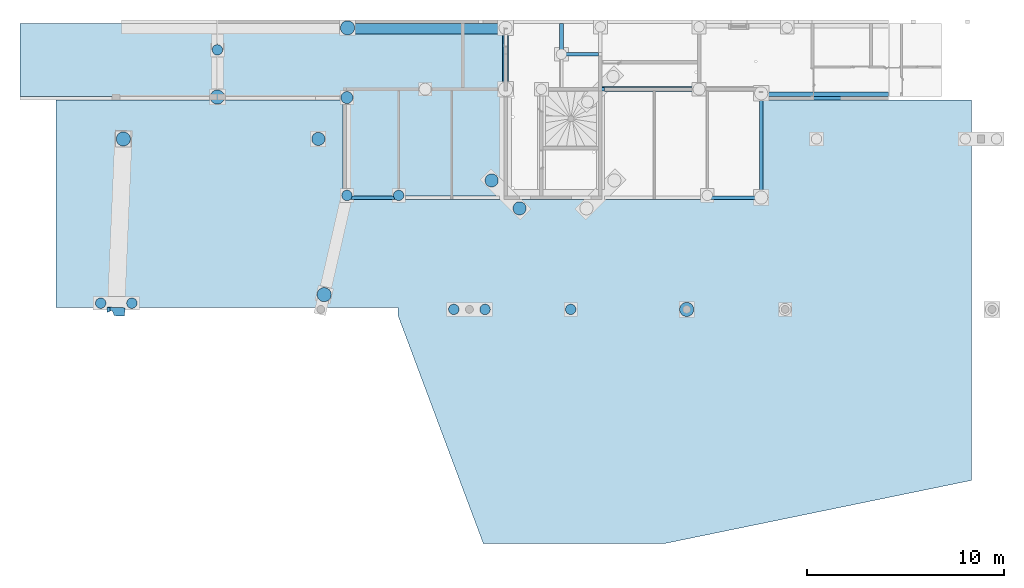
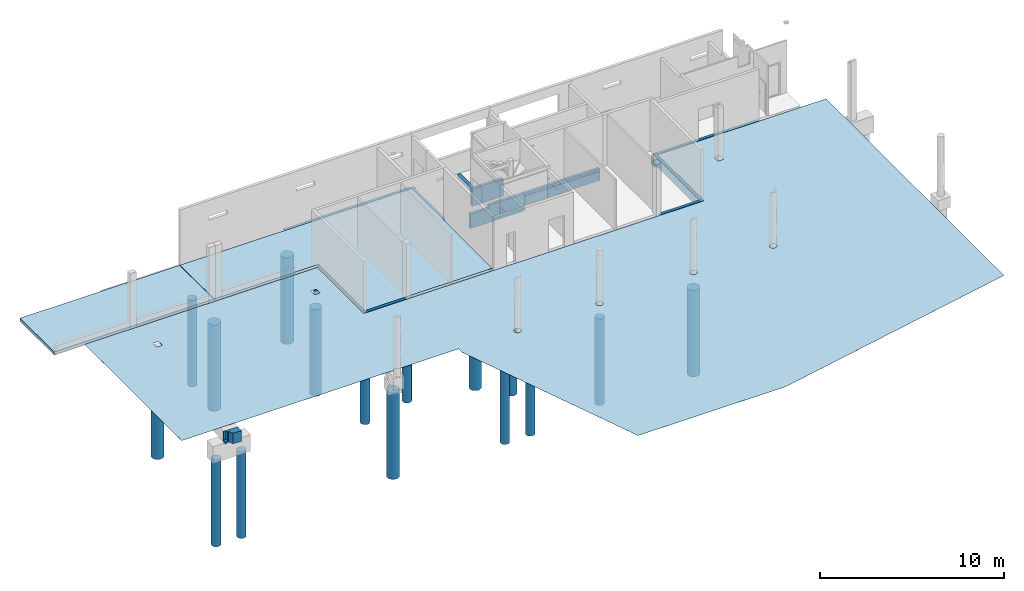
# One storey, part 3 of 29: 20 slabs, 11 beams, 7 openings.
"""IFC2X3 building model written with IfcOpenShell, lengths in centimetres."""

from ifc_helpers import new_model, entity, si_unit, converted_unit, derived_unit, direction, frame, frame_2d, origin, origin_2d_with_axis, place, context, subcontext, project, spatial, polyline, circle_curve, parameter, trimmed, segment, composite_curve, rectangle, circle, outline, extrude, faceted_brep, source, transform, mapped, material, material_list, layer, layer_set, layer_usage, type_object, type_shapes, element, save


model = new_model("IFC2X3")

# Units and contexts
model_context = context("Model", 3, precision=0.001, world=origin(), true_north=direction((6.12303176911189e-17, 1.0)))
body_context = subcontext(model_context, "Body", "Model", "MODEL_VIEW")
ifc_project = project(units=[si_unit("LENGTHUNIT", "METRE", prefix="CENTI"), si_unit("AREAUNIT", "SQUARE_METRE"), si_unit("VOLUMEUNIT", "CUBIC_METRE"), converted_unit("PLANEANGLEUNIT", "DEGREE", entity("IfcRatioMeasure", 0.0174532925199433), si_unit("PLANEANGLEUNIT", "RADIAN"), dimensions=[0, 0, 0, 0, 0, 0, 0]), si_unit("MASSUNIT", "GRAM", prefix="KILO"), derived_unit("MASSDENSITYUNIT", [(si_unit("MASSUNIT", "GRAM", prefix="KILO"), 1), (si_unit("LENGTHUNIT", "METRE"), -3)]), si_unit("TIMEUNIT", "SECOND"), si_unit("FREQUENCYUNIT", "HERTZ"), si_unit("THERMODYNAMICTEMPERATUREUNIT", "DEGREE_CELSIUS"), derived_unit("THERMALTRANSMITTANCEUNIT", [(si_unit("MASSUNIT", "GRAM", prefix="KILO"), 1), (si_unit("THERMODYNAMICTEMPERATUREUNIT", "KELVIN"), -1), (si_unit("TIMEUNIT", "SECOND"), -3)]), derived_unit("VOLUMETRICFLOWRATEUNIT", [(si_unit("LENGTHUNIT", "METRE"), 3), (si_unit("TIMEUNIT", "SECOND"), -1)]), si_unit("ELECTRICCURRENTUNIT", "AMPERE"), si_unit("ELECTRICVOLTAGEUNIT", "VOLT"), si_unit("POWERUNIT", "WATT"), si_unit("FORCEUNIT", "NEWTON"), si_unit("ILLUMINANCEUNIT", "LUX"), si_unit("LUMINOUSFLUXUNIT", "LUMEN"), si_unit("LUMINOUSINTENSITYUNIT", "CANDELA"), derived_unit("USERDEFINED", [(si_unit("MASSUNIT", "GRAM", prefix="KILO"), -1), (si_unit("LENGTHUNIT", "METRE"), -2), (si_unit("TIMEUNIT", "SECOND"), 3), (si_unit("LUMINOUSFLUXUNIT", "LUMEN"), 1)]), derived_unit("LINEARVELOCITYUNIT", [(si_unit("LENGTHUNIT", "METRE"), 1), (si_unit("TIMEUNIT", "SECOND"), -1)]), si_unit("PRESSUREUNIT", "PASCAL"), derived_unit("USERDEFINED", [(si_unit("LENGTHUNIT", "METRE"), -2), (si_unit("MASSUNIT", "GRAM", prefix="KILO"), 1), (si_unit("TIMEUNIT", "SECOND"), -2)])], contexts=[model_context])

# Site, building, storey
site_placement = place(None, origin())
site = spatial("IfcSite", under=ifc_project, at=site_placement, Name="Default", CompositionType="ELEMENT")
building_placement = place(site_placement, origin())
building = spatial("IfcBuilding", under=site, at=building_placement, Name="CAGE 03", CompositionType="ELEMENT")
storey_placement = place(building_placement, frame((0.0, 0.0, -26.0)))
storey = spatial("IfcBuildingStorey", under=building, at=storey_placement, Name="+3.74", CompositionType="ELEMENT", Elevation=-26.0000000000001)

# Beams
ifc_material_1 = material(Name="Béton, C25/30")
ifc_material_2 = material(Name="<Unnamed>")
ifc_material_list = material_list([ifc_material_1, ifc_material_2])
beam_type_1 = type_object("IfcBeamType", Name="40x80ht", PredefinedType="BEAM", material=ifc_material_list)
beam_1_placement = place(storey_placement, frame((8131.36582014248, 4886.66066607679, -80.0)))
element("IfcBeam", 1, at=beam_1_placement, inside=storey, type_object=beam_type_1, material=ifc_material_1, Name="BBGO-Poutre rect:40x80ht", ObjectType="BBGO-Poutre rect:40x80ht", context=body_context, shape_type="Brep", body=[
    faceted_brep([(656.0, 0.0, 80.0), (656.0, 0.0, 0.0), (656.0, 40.0, 0.0), (656.0, 40.0, 60.0), (656.0, 18.0, 60.0), (656.0, 18.0, 80.0), (0.0, 40.0, 0.0), (0.0, 0.0, 0.0), (0.0, 0.0, 20.0), (0.0, 9.0, 20.0), (0.0, 9.0, 60.0), (0.0, 9.0, 80.0), (0.0, 18.0, 80.0), (0.0, 18.0, 60.0), (0.0, 40.0, 60.0), (412.499999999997, 0.0, 80.0), (276.499999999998, 0.0, 80.0), (18.0, 0.0, 80.0), (18.0, 0.0, 20.0), (617.0, 0.0, 0.0), (18.0, 40.0, 0.0), (617.0, 40.0, 0.0), (18.0, 40.0, 60.0), (412.499999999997, 18.0, 80.0), (276.499999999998, 18.0, 80.0), (18.0, 18.0, 80.0), (18.0, 9.0, 80.0), (18.0, 9.0, 20.0)], [[[0, 1, 2, 3, 4, 5]], [[6, 7, 8, 9, 10, 11, 12, 13, 14]], [[1, 0, 15, 16, 17, 18, 8, 7, 19]], [[2, 1, 19, 7, 6, 20, 21]], [[2, 21, 20, 6, 14, 22, 3]], [[17, 16, 15, 0, 5, 23, 24, 25, 12, 11, 26]], [[27, 9, 8, 18]], [[26, 27, 18, 17]], [[27, 26, 11, 10, 9]], [[13, 4, 3, 22, 14]], [[4, 13, 12, 25, 24, 23, 5]]]),
])
beam_type_2 = type_object("IfcBeamType", Name="BBGO-Poutre rect:70x80ht", PredefinedType="BEAM")
beam_2_placement = place(storey_placement, frame((6036.36582014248, 5223.6606660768, -80.0)))
element("IfcBeam", 2, at=beam_2_placement, inside=storey, type_object=beam_type_2, material=ifc_material_1, Name="BBGO-Poutre rect:70x80ht", ObjectType="BBGO-Poutre rect:70x80ht", context=body_context, shape_type="Brep", body=[
    faceted_brep([(789.0, 0.0, 0.0), (0.0, 0.0, 0.0), (0.0, 70.0, 0.0), (40.0, 70.0, 0.0), (789.0, 70.0, 0.0), (0.0, 70.0, 80.0), (795.0, 70.0, 80.0), (795.0, 70.0, 75.0), (789.0, 70.0, 75.0), (0.0, 52.0, 80.0), (795.0, 52.0, 80.0), (0.0, 0.0, 60.0), (789.0, 0.0, 60.0), (789.0, 52.0, 60.0), (0.0, 52.0, 60.0), (789.0, 52.0, 75.0), (795.0, 52.0, 75.0)], [[[0, 1, 2, 3, 4]], [[4, 3, 2, 5, 6, 7, 8]], [[5, 9, 10, 6]], [[11, 12, 13, 14]], [[14, 13, 15, 16, 10, 9]], [[8, 15, 13, 12, 0, 4]], [[15, 8, 7, 16]], [[12, 11, 1, 0]], [[7, 6, 10, 16]], [[5, 2, 1, 11, 14, 9]]]),
])
beam_type_3 = type_object("IfcBeamType", Name="BBGO-Poutre rect:30x80ht", PredefinedType="BEAM")
beam_3_placement = place(storey_placement, frame((6825.36582014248, 4950.6606660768, -85.0), z_axis=(0.0, 0.0, 1.0), x_axis=(0.0, 1.0, 0.0)))
element("IfcBeam", 3, at=beam_3_placement, inside=storey, type_object=beam_type_3, material=ifc_material_1, Name="BBGO-Poutre rect:30x80ht", ObjectType="BBGO-Poutre rect:30x80ht", context=body_context, shape_type="Brep", body=[
    faceted_brep([(343.0, -30.0, 80.0), (343.0, -30.0, 0.0), (343.0, 0.0, 0.0), (343.0, 0.0, 5.0), (343.0, 0.0, 80.0), (343.0, -6.0, 80.0), (325.0, -30.0, 80.0), (325.0, -30.0, 60.0), (0.0, -30.0, 60.0), (0.0, -30.0, 0.0), (325.0, -30.0, 0.0), (0.0, 0.0, 0.0), (0.0, 0.0, 65.0), (273.0, 0.0, 65.0), (325.0, 0.0, 65.0), (325.0, 0.0, 80.0), (325.0, -6.0, 80.0), (169.0, -6.0, 80.0), (0.0, -6.0, 80.0), (0.0, -24.0, 80.0), (169.0, -24.0, 80.0), (325.0, -24.0, 80.0), (0.0, -6.0, 65.0), (325.0, -6.0, 65.0), (325.0, -24.0, 60.0), (0.0, -24.0, 60.0)], [[[0, 1, 2, 3, 4, 5]], [[1, 0, 6, 7, 8, 9, 10]], [[2, 1, 10, 9, 11]], [[4, 3, 2, 11, 12, 13, 14, 15]], [[0, 5, 4, 15, 16, 17, 18, 19, 20, 21, 6]], [[14, 13, 12, 22, 23]], [[23, 22, 18, 17, 16]], [[7, 24, 25, 8]], [[24, 21, 20, 19, 25]], [[11, 9, 8, 25, 19, 18, 22, 12]], [[14, 23, 16, 15]], [[21, 24, 7, 6]]]),
])
beam_type_4 = type_object("IfcBeamType", Name="BBGO-Poutre rect:90x70ht", PredefinedType="BEAM")
beam_4_placement = place(storey_placement, frame((4813.06767684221, 3787.50394969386, -102.0), z_axis=(0.0, 0.0, 1.0), x_axis=(0.0427203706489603, 0.999087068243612, 0.0)))
element("IfcBeam", 4, at=beam_4_placement, inside=storey, type_object=beam_type_4, material=ifc_material_1, Name="BBGO-Poutre rect:90x70ht", ObjectType="BBGO-Poutre rect:90x70ht", context=body_context, shape_type="Brep", body=[
    faceted_brep([(3.8151997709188, -89.2248053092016, 0.0), (3.8151997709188, -89.2248053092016, 4.0), (3.8151997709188, -89.2248053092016, 70.0), (3.8151997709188, -36.8156789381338, 70.0), (3.8151997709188, -36.8156789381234, 4.0), (3.8151997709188, -36.8156789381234, 0.0), (46.0880917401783, -89.224805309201, 0.0), (46.0880917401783, -89.224805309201, 70.0), (30.157313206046, -24.0553929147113, 0.0), (18.1292198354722, 0.775194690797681, 0.0), (46.0880917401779, 0.775194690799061, 0.0), (44.163918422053, 0.775194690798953, 14.0), (44.163918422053, 0.775194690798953, 70.0), (46.0880917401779, 0.775194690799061, 70.0), (18.1292198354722, 0.775194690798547, 14.0), (44.8053095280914, -14.2248053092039, 70.0), (25.7891939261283, -15.03792313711, 70.0), (30.1573132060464, -24.0553929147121, 70.0), (44.8053095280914, -14.2248053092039, 14.0), (25.7891939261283, -15.0379231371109, 14.0)], [[[0, 1, 2, 3, 4, 5]], [[2, 1, 0, 6, 7]], [[6, 0, 5, 8, 9, 10]], [[11, 12, 13, 10, 9, 14]], [[2, 7, 13, 12, 15, 16, 17, 3]], [[18, 11, 14, 19]], [[17, 8, 5, 4, 3]], [[8, 17, 16, 19, 14, 9]], [[15, 18, 19, 16]], [[12, 11, 18, 15]], [[7, 6, 10, 13]]]),
])
beam_type_5 = type_object("IfcBeamType", Name="BBGO-Poutre rect:18x60ht", PredefinedType="BEAM")
beam_5_placement = place(storey_placement, frame((6028.77961324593, 4381.6606660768, -60.0)))
element("IfcBeam", 5, at=beam_5_placement, inside=storey, type_object=beam_type_5, material=ifc_material_1, Name="BBGO-Poutre rect:18x60ht", ObjectType="BBGO-Poutre rect:18x60ht", context=body_context, shape_type="Brep", body=[
    faceted_brep([(30.7786437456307, 0.0, 28.0), (30.7786437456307, 0.0, 0.0), (252.586206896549, 0.0, 0.0), (252.586206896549, 0.0, 60.0), (2.5862068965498, 0.0, 60.0), (0.0, 0.0, 60.0), (0.0, 0.0, 28.0), (34.9062299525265, 18.0, 0.0), (252.586206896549, 18.0, 0.0), (34.9062299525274, 18.0, 28.0), (24.5862068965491, 18.0, 28.0), (4.127586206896, 18.0, 28.0), (4.127586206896, 18.0, 40.0), (24.5862068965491, 18.0, 40.0), (252.586206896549, 18.0, 40.0), (4.12230815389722, 17.9769829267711, 60.0), (252.586206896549, 17.9769829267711, 60.0), (4.12230815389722, 17.9769829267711, 40.0), (252.586206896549, 17.9769829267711, 40.0)], [[[0, 1, 2, 3, 4, 5, 6]], [[1, 7, 8, 2]], [[7, 9, 10, 11, 12, 13, 14, 8]], [[15, 5, 4, 3, 16]], [[12, 17, 18, 14, 13]], [[17, 15, 16, 18]], [[0, 9, 7, 1]], [[9, 0, 6, 11, 10]], [[5, 15, 17, 12, 11, 6]], [[3, 2, 8, 14, 18, 16]]]),
])
beam_6_placement = place(storey_placement, frame((7881.36582014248, 4381.6606660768, -60.0)))
element("IfcBeam", 6, at=beam_6_placement, inside=storey, type_object=beam_type_5, material=ifc_material_1, Name="BBGO-Poutre rect:18x60ht", ObjectType="BBGO-Poutre rect:18x60ht", context=body_context, shape_type="Brep", body=[
    faceted_brep([(259.0, 0.0, 60.0), (259.0, 0.0, 0.0), (259.0, 18.0, 0.0), (259.0, 18.0, 60.0), (250.0, 0.0, 60.0), (0.0, 0.0, 60.0), (0.0, 0.0, 0.0), (0.0, 18.0, 0.0), (250.0, 18.0, 0.0), (0.0, 18.0, 40.0), (250.0, 18.0, 40.0), (250.0, 18.0, 60.0), (250.0, 17.9769829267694, 60.0), (0.0, 17.9769829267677, 60.0), (0.0, 17.9769829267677, 40.0), (250.0, 17.9769829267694, 40.0)], [[[0, 1, 2, 3]], [[1, 0, 4, 5, 6]], [[2, 1, 6, 7, 8]], [[3, 2, 8, 7, 9, 10, 11]], [[0, 3, 11, 12, 13, 5, 4]], [[6, 5, 13, 14, 9, 7]], [[14, 15, 10, 9]], [[15, 12, 11, 10]], [[12, 15, 14, 13]]]),
])
beam_7_placement = place(storey_placement, frame((8131.36582014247, 4381.6606660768, -60.0), z_axis=(0.0, 0.0, 1.0), x_axis=(0.0, 1.0, 0.0)))
element("IfcBeam", 7, at=beam_7_placement, inside=storey, type_object=beam_type_5, material=ifc_material_1, Name="BBGO-Poutre rect:18x60ht", ObjectType="BBGO-Poutre rect:18x60ht", context=body_context, shape_type="Brep", body=[
    faceted_brep([(514.0, -18.0, 0.0), (514.0, 0.0, 0.0), (514.0, 0.0, 40.0), (514.0, 0.0, 60.0), (514.0, -18.0, 60.0), (0.0, -18.0, 0.0), (0.0, -18.0, 60.0), (0.0, -9.0, 60.0), (0.0, -9.0, 0.0), (18.0, 0.0, 60.0), (505.0, 0.0, 0.0), (18.0, 0.0, 0.0), (18.0, 0.0, 40.0), (505.0, -18.0, 0.0), (18.0, -9.0, 0.0), (505.0, -18.0, 60.0), (18.0, -9.0, 60.0)], [[[0, 1, 2, 3, 4]], [[5, 6, 7, 8]], [[9, 3, 2, 1, 10, 11, 12]], [[1, 0, 13, 5, 8, 14, 11, 10]], [[0, 4, 15, 6, 5, 13]], [[4, 3, 9, 16, 7, 6, 15]], [[16, 14, 8, 7]], [[14, 16, 9, 12, 11]]]),
])
beam_type_6 = type_object("IfcBeamType", Name="BBGO-Poutre rect:18x115ht", PredefinedType="BEAM")
beam_8_placement = place(storey_placement, frame((7002.36582014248, 4932.6606660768, -120.0), z_axis=(0.0, 0.0, 1.0), x_axis=(-1.0, 0.0, 0.0)))
element("IfcBeam", 8, at=beam_8_placement, inside=storey, type_object=beam_type_6, material=ifc_material_1, Name="BBGO-Poutre rect:18x115ht", ObjectType="BBGO-Poutre rect:18x115ht", context=body_context, shape_type="Brep", body=[
    faceted_brep([(0.0, -18.0, 0.0), (0.0, 0.0, 0.0), (0.0, 0.0, 35.0), (0.0, 0.0, 95.0), (0.0, -18.0, 95.0), (-340.0, -18.0, 115.0), (-340.0, 0.0, 115.0), (-340.0, 0.0, 100.0), (-340.0, 0.0, 35.0), (-340.0, 0.0, 0.0), (-340.0, -18.0, 0.0), (-340.0, -18.0, 40.0), (-340.0, -18.0, 95.0), (-329.0, -18.0, 0.0), (-311.0, -18.0, 0.0), (-131.0, -18.0, 0.0), (-113.0, -18.0, 0.0), (-113.0, -18.0, 95.0), (-116.0, -18.0, 95.0), (-116.0, -18.0, 113.0), (-116.0, -18.0, 115.0), (-311.0, -18.0, 115.0), (-329.0, -18.0, 115.0), (-329.0, 0.0, 115.0), (-311.0, 0.0, 115.0), (-116.0, 0.0, 115.0), (-116.0, 0.0, 95.0), (-40.0, 0.0, 95.0)], [[[0, 1, 2, 3, 4]], [[5, 6, 7, 8, 9, 10, 11, 12]], [[10, 13, 14, 15, 16, 0, 4, 17, 18, 19, 20, 21, 22, 5, 12, 11]], [[1, 0, 16, 15, 14, 13, 10, 9]], [[1, 9, 8, 7, 6, 23, 24, 25, 26, 27, 3, 2]], [[6, 5, 22, 21, 20, 25, 24, 23]], [[26, 18, 17, 4, 3, 27]], [[18, 26, 25, 20, 19]]]),
])
beam_9_placement = place(storey_placement, frame((7115.36582014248, 5110.6606660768, -120.0), z_axis=(0.0, 0.0, 1.0), x_axis=(-1.0, 0.0, 0.0)))
element("IfcBeam", 9, at=beam_9_placement, inside=storey, type_object=beam_type_6, material=ifc_material_1, Name="BBGO-Poutre rect:18x115ht", ObjectType="BBGO-Poutre rect:18x115ht", context=body_context, shape_type="Brep", body=[
    faceted_brep([(0.0, -18.0, 0.0), (0.0, 0.0, 0.0), (0.0, 0.0, 95.0), (0.0, -18.0, 95.0), (-198.0, -18.0, 0.0), (-3.0, -18.0, 95.0), (-3.0, -18.0, 115.0), (-198.0, -18.0, 115.0), (-198.0, -18.0, 95.0), (-198.0, 0.0, 0.0), (-18.0, 0.0, 0.0), (-198.0, 0.0, 20.0), (-198.0, 0.0, 115.0), (-3.0, 0.0, 115.0), (-3.0, 0.0, 113.0), (-3.0, 0.0, 95.0)], [[[0, 1, 2, 3]], [[4, 0, 3, 5, 6, 7, 8]], [[1, 0, 4, 9, 10]], [[1, 10, 9, 11, 12, 13, 14, 15, 2]], [[12, 7, 6, 13]], [[9, 4, 8, 7, 12, 11]], [[15, 5, 3, 2]], [[5, 15, 14, 13, 6]]]),
])
beam_type_7 = type_object("IfcBeamType", Name="BBGO-Poutre rect:25x75ht", PredefinedType="BEAM")
beam_10_placement = place(storey_placement, frame((7331.36582014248, 4929.1606660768, -80.0), z_axis=(0.0, 0.0, 1.0), x_axis=(-1.0, 0.0, 0.0)))
element("IfcBeam", 10, at=beam_10_placement, inside=storey, type_object=beam_type_7, material=ifc_material_1, Name="BBGO-Poutre rect:25x75ht", ObjectType="BBGO-Poutre rect:25x75ht", context=body_context, shape_type="Brep", body=[
    faceted_brep([(-484.0, 0.0, 0.0), (-484.0, -25.0, 0.0), (-484.0, -25.0, 55.0), (-484.0, -21.4999999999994, 55.0), (-484.0, -21.4999999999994, 75.0), (-484.0, -3.4999999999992, 75.0), (-484.0, -3.49999999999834, 60.0), (-484.0, 0.0, 60.0), (0.0, -25.0, 0.0), (0.0, -25.0, 55.0), (-11.0, 0.0, 0.0), (-11.0, -21.5000000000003, 0.0), (0.0, -21.5000000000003, 0.0), (-11.0, 0.0, 60.0), (-11.0, -21.5000000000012, 75.0), (-11.0, -3.50000000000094, 75.0), (0.0, -21.5000000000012, 55.0), (-11.0, -3.50000000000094, 60.0), (-11.0, -21.5000000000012, 55.0)], [[[0, 1, 2, 3, 4, 5, 6, 7]], [[1, 8, 9, 2]], [[1, 0, 10, 11, 12, 8]], [[10, 0, 7, 13]], [[14, 15, 5, 4]], [[16, 9, 8, 12]], [[10, 13, 17, 15, 14, 18, 11]], [[2, 9, 16, 18, 3]], [[4, 3, 18, 14]], [[13, 7, 6, 17]], [[15, 17, 6, 5]], [[11, 18, 16, 12]]]),
])
beam_type_8 = type_object("IfcBeamType", Name="20x20ht", PredefinedType="BEAM", material=ifc_material_1)
shared_shape = source(origin(), body_context, "Body", "Brep", [
    faceted_brep([(20.0, 147.0, 20.0), (20.0, 147.0, 0.0), (0.0, 147.0, 0.0), (0.0, 147.0, 20.0), (20.0, 0.0, 20.0), (0.0, 0.0, 20.0), (0.0, 0.0, 0.0), (20.0, 0.0, 0.0)], [[[0, 1, 2, 3]], [[4, 5, 6, 7]], [[1, 0, 4, 7]], [[2, 1, 7, 6]], [[3, 2, 6, 5]], [[0, 3, 5, 4]]]),
])
type_shapes(beam_type_8, [shared_shape])
beam_11_placement = place(storey_placement, frame((7115.36582014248, 5128.6606660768, -25.0)))
element("IfcBeam", 11, at=beam_11_placement, inside=storey, type_object=beam_type_8, material=ifc_material_1, Name="BBGO-Poutre rect:20x20ht", ObjectType="20x20ht", context=body_context, shape_type="MappedRepresentation", body=[
    mapped(shared_shape, transform((0.0, 0.0, 0.0), scale=1.0)),
])

# Slabs
ifc_layer_1 = layer(ifc_material_1, 20.0)
ifc_layer_set_1 = layer_set([ifc_layer_1], Name="Sol:Dalle Béton - 20 cm")
ifc_layer_usage_1 = layer_usage(ifc_layer_set_1, "AXIS3", "POSITIVE", 0.0)
slab_1_placement = place(storey_placement, frame((4370.36582014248, 4399.63764900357, -20.0)))
element("IfcSlab", 12, at=slab_1_placement, inside=storey, material=ifc_layer_usage_1, Name="Sol:Dalle Béton - 20 cm", ObjectType="Sol:Dalle Béton - 20 cm", PredefinedType="FLOOR", context=body_context, shape_type="SweptSolid", body=[
    extrude(outline(polyline([(-430.500000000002, 67.0115085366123), (225.499999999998, 67.0115085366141), (225.499999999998, 438.011508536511), (-1230.5, 438.011508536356), (-1230.5, -438.011508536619), (-430.500000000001, -438.011508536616), (-430.500000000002, 67.0115085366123)])), frame((1230.5, 438.011508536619, 20.0), z_axis=(0.0, 0.0, -1.0), x_axis=(-1.0, 0.0, 0.0)), (0.0, 0.0, 1.0), 20.0),
])
slab_2_placement = place(storey_placement, frame((4370.36582014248, 4399.63764900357, -20.0)))
element("IfcSlab", 13, at=slab_2_placement, inside=storey, material=ifc_layer_usage_1, Name="Sol:Dalle Béton - 20 cm:2", ObjectType="Sol:Dalle Béton - 20 cm", PredefinedType="FLOOR", context=body_context, shape_type="SweptSolid", body=[
    extrude(rectangle(XDim=1003.0, YDim=371.000000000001, at=frame_2d((729.0, 252.511508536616), x_axis=(-1.0, 0.0))), frame((1230.5, 438.011508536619, 20.0), z_axis=(0.0, 0.0, -1.0), x_axis=(-1.0, 0.0, 0.0)), (0.0, 0.0, 1.0), 20.0),
])
ifc_material_3 = material(Name="B25")
slab_3_placement = place(storey_placement, origin())
element("IfcSlab", 14, at=slab_3_placement, inside=storey, material=ifc_material_3, Name="Pieux:Ø51/72", ObjectType="Pieux:Ø51/72", PredefinedType="BASESLAB", context=body_context, shape_type="SweptSolid", body=[
    extrude(circle(Radius=36.0, at=origin_2d_with_axis()), frame((6036.36582014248, 5253.6606660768, -720.0)), (0.0, 0.0, 1.0), 575.0),
])
slab_4_placement = place(storey_placement, origin())
element("IfcSlab", 15, at=slab_4_placement, inside=storey, material=ifc_material_3, Name="Pieux:Ø51/72", ObjectType="Pieux:Ø51/72", PredefinedType="BASESLAB", context=body_context, shape_type="SweptSolid", body=[
    extrude(circle(Radius=36.0, at=origin_2d_with_axis()), frame((5374.36582014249, 4901.66066607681, -720.0)), (0.0, 0.0, 1.0), 575.0),
])
slab_5_placement = place(storey_placement, origin())
element("IfcSlab", 16, at=slab_5_placement, inside=storey, material=ifc_material_3, Name="Pieux:Ø41/61", ObjectType="Pieux:Ø41/61", PredefinedType="BASESLAB", context=body_context, shape_type="SweptSolid", body=[
    extrude(circle(Radius=30.5, at=origin_2d_with_axis()), frame((6033.36582014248, 4899.1606660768, -690.0)), (0.0, 0.0, 1.0), 575.0),
])
slab_6_placement = place(storey_placement, origin())
element("IfcSlab", 17, at=slab_6_placement, inside=storey, material=ifc_material_3, Name="Pieux:Ø36/53", ObjectType="Pieux:Ø36/53", PredefinedType="BASESLAB", context=body_context, shape_type="SweptSolid", body=[
    extrude(circle(Radius=26.5, at=origin_2d_with_axis()), frame((4780.6444007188, 3853.2557371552, -782.0)), (0.0, 0.0, 1.0), 575.0),
])
slab_7_placement = place(storey_placement, origin())
element("IfcSlab", 18, at=slab_7_placement, inside=storey, material=ifc_material_3, Name="Pieux:Ø51/72", ObjectType="Pieux:Ø51/72", PredefinedType="BASESLAB", context=body_context, shape_type="SweptSolid", body=[
    extrude(circle(Radius=36.0, at=origin_2d_with_axis()), frame((4895.86582014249, 4688.66066607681, -742.0)), (0.0, 0.0, 1.0), 575.0),
])
slab_8_placement = place(storey_placement, origin())
element("IfcSlab", 19, at=slab_8_placement, inside=storey, material=ifc_material_3, Name="Pieux:Ø36/53", ObjectType="Pieux:Ø36/53", PredefinedType="BASESLAB", context=body_context, shape_type="SweptSolid", body=[
    extrude(circle(Radius=26.5, at=origin_2d_with_axis()), frame((6033.36582014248, 4401.6606660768, -742.0)), (0.0, 0.0, 1.0), 575.0),
])
slab_9_placement = place(storey_placement, origin())
element("IfcSlab", 20, at=slab_9_placement, inside=storey, material=ifc_material_3, Name="Pieux:Ø51/72", ObjectType="Pieux:Ø51/72", PredefinedType="BASESLAB", context=body_context, shape_type="SweptSolid", body=[
    extrude(circle(Radius=36.0, at=origin_2d_with_axis()), frame((5917.56409600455, 3896.6606660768, -752.0)), (0.0, 0.0, 1.0), 575.0),
])
slab_10_placement = place(storey_placement, origin())
element("IfcSlab", 21, at=slab_10_placement, inside=storey, material=ifc_material_3, Name="Pieux:Ø46/67", ObjectType="Pieux:Ø46/67", PredefinedType="BASESLAB", context=body_context, shape_type="SweptSolid", body=[
    extrude(circle(Radius=33.5, at=origin_2d_with_axis()), frame((5887.86582014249, 4688.6606660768, -672.0)), (0.0, 0.0, 1.0), 575.0),
])
slab_11_placement = place(storey_placement, origin())
element("IfcSlab", 22, at=slab_11_placement, inside=storey, material=ifc_material_3, Name="Pieux:Ø36/53", ObjectType="Pieux:Ø36/53", PredefinedType="BASESLAB", context=body_context, shape_type="SweptSolid", body=[
    extrude(circle(Radius=26.5, at=origin_2d_with_axis()), frame((6296.36582014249, 4401.6606660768, -690.0)), (0.0, 0.0, 1.0), 575.0),
])
slab_12_placement = place(storey_placement, origin())
element("IfcSlab", 23, at=slab_12_placement, inside=storey, material=ifc_material_3, Name="Pieux:Ø46/67", ObjectType="Pieux:Ø46/67", PredefinedType="BASESLAB", context=body_context, shape_type="SweptSolid", body=[
    extrude(circle(Radius=33.5, at=origin_2d_with_axis()), frame((6769.30158863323, 4477.72489758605, -815.0)), (0.0, 0.0, 1.0), 575.0),
])
slab_13_placement = place(storey_placement, origin())
element("IfcSlab", 24, at=slab_13_placement, inside=storey, material=ifc_material_3, Name="Pieux:Ø51/72", ObjectType="Pieux:Ø51/72", PredefinedType="BASESLAB", context=body_context, shape_type="SweptSolid", body=[
    extrude(circle(Radius=36.0, at=origin_2d_with_axis()), frame((7761.36582014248, 3821.6606660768, -672.0)), (0.0, 0.0, 1.0), 575.0),
])
slab_14_placement = place(storey_placement, origin())
element("IfcSlab", 25, at=slab_14_placement, inside=storey, material=ifc_material_3, Name="Pieux:Ø36/53", ObjectType="Pieux:Ø36/53", PredefinedType="BASESLAB", context=body_context, shape_type="SweptSolid", body=[
    extrude(circle(Radius=26.5, at=origin_2d_with_axis()), frame((7171.36582014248, 3821.6606660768, -662.0)), (0.0, 0.0, 1.0), 575.0),
])
slab_15_placement = place(storey_placement, origin())
element("IfcSlab", 26, at=slab_15_placement, inside=storey, material=ifc_material_3, Name="Pieux:Ø36/53", ObjectType="Pieux:Ø36/53", PredefinedType="BASESLAB", context=body_context, shape_type="SweptSolid", body=[
    extrude(circle(Radius=26.5, at=origin_2d_with_axis()), frame((6576.86582014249, 3821.6606660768, -712.0)), (0.0, 0.0, 1.0), 575.0),
])

# Slab, openings
ifc_material_4 = material(Name="Site - Asphalte")
ifc_layer_2 = layer(ifc_material_4, 0.1)
ifc_layer_set_2 = layer_set([ifc_layer_2], Name="Sol:Enrobé")
ifc_layer_usage_2 = layer_usage(ifc_layer_set_2, "AXIS3", "POSITIVE", 0.0)
slab_16_placement = place(storey_placement, frame((4552.36582014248, 2631.88743574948, -2.1)))
slab_16 = element("IfcSlab", 27, at=slab_16_placement, inside=storey, material=ifc_layer_usage_2, Name="Sol:Enrobé", ObjectType="Sol:Enrobé", PredefinedType="FLOOR", context=body_context, shape_type="SweptSolid", body=[
    extrude(outline(composite_curve([segment(trimmed(circle_curve(frame_2d((981.004490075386, 62.3437404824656), x_axis=(-1.0, 0.0)), 20.0), [parameter(210.141929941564)], [parameter(329.935008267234)], True, "PARAMETER"), False, "CONTINUOUS"), segment(polyline([(998.300173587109, 72.3866151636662), (2329.0, 72.3866151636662)]), True, "CONTINUOUS"), segment(polyline([(2329.0, 72.3866151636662), (2329.0, 1127.38661516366)]), True, "CONTINUOUS"), segment(polyline([(2329.0, 1127.38661516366), (868.0, 1127.38661516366)]), True, "CONTINUOUS"), segment(polyline([(868.0, 1127.38661516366), (868.0, 622.386615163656)]), True, "CONTINUOUS"), segment(polyline([(868.0, 622.386615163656), (-1268.0, 622.386615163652)]), True, "CONTINUOUS"), segment(polyline([(-1268.0, 622.386615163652), (-1268.0, 1127.38661516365)]), True, "CONTINUOUS"), segment(polyline([(-1268.0, 1127.38661516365), (-2329.0, 1127.38661516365)]), True, "CONTINUOUS"), segment(polyline([(-2329.0, 1127.38661516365), (-2329.0, -807.394976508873)]), True, "CONTINUOUS"), segment(polyline([(-2329.0, -807.394976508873), (-773.496308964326, -1127.38661516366)]), True, "CONTINUOUS"), segment(polyline([(-773.496308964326, -1127.38661516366), (154.934159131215, -1127.38661516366)]), True, "CONTINUOUS"), segment(polyline([(154.934159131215, -1127.38661516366), (588.0, 30.6133848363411)]), True, "CONTINUOUS"), segment(polyline([(588.0, 30.6133848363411), (588.0, 72.3633810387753)]), True, "CONTINUOUS"), segment(polyline([(588.0, 72.3633810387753), (963.695336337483, 72.3633810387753)]), True, "CONTINUOUS")], self_intersect=False)), frame((2329.0, 1127.38661516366, 0.100000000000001), z_axis=(0.0, 0.0, -1.0), x_axis=(-1.0, 0.0, 0.0)), (0.0, 0.0, 1.0), 0.100000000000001),
])
opening_1_placement = place(slab_16_placement, frame((343.500000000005, 2056.77323032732, 0.100000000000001)))
element("IfcOpeningElement", 28, at=opening_1_placement, cuts=slab_16, Name="Sol:Enrobé:2", ObjectType="Opening", context=body_context, shape_type="SweptSolid", body=[
    extrude(rectangle(XDim=39.9999999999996, YDim=35.0000000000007, at=origin_2d_with_axis()), frame((0.0, 0.0, 0.0), z_axis=(0.0, 0.0, -1.0), x_axis=(0.0, -1.0, 0.0)), (0.0, 0.0, 1.0), 0.100000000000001),
])
opening_2_placement = place(slab_16_placement, frame((1335.5, 2056.77323032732, 0.100000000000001)))
element("IfcOpeningElement", 29, at=opening_2_placement, cuts=slab_16, Name="Sol:Enrobé:3", ObjectType="Opening", context=body_context, shape_type="SweptSolid", body=[
    extrude(rectangle(XDim=39.9999999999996, YDim=35.0000000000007, at=origin_2d_with_axis()), frame((0.0, 0.0, 0.0), z_axis=(0.0, 0.0, -1.0), x_axis=(0.0, -1.0, 0.0)), (0.0, 0.0, 1.0), 0.100000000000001),
])
opening_3_placement = place(slab_16_placement, frame((2104.0, 1189.77323032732, 0.100000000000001)))
element("IfcOpeningElement", 30, at=opening_3_placement, cuts=slab_16, Name="Sol:Enrobé:4", ObjectType="Opening", context=body_context, shape_type="SweptSolid", body=[
    extrude(circle(Radius=20.0, at=origin_2d_with_axis()), frame((0.0, 0.0, 0.0), z_axis=(0.0, 0.0, -1.0), x_axis=(1.0, 0.0, 0.0)), (0.0, 0.0, 1.0), 0.100000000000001),
])
opening_4_placement = place(slab_16_placement, frame((2619.0, 1189.77323032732, 0.100000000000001)))
element("IfcOpeningElement", 31, at=opening_4_placement, cuts=slab_16, Name="Sol:Enrobé:5", ObjectType="Opening", context=body_context, shape_type="SweptSolid", body=[
    extrude(circle(Radius=20.0, at=origin_2d_with_axis()), frame((0.0, 0.0, 0.0), z_axis=(0.0, 0.0, -1.0), x_axis=(1.0, 0.0, 0.0)), (0.0, 0.0, 1.0), 0.100000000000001),
])
opening_5_placement = place(slab_16_placement, frame((3209.0, 1189.77323032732, 0.100000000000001)))
element("IfcOpeningElement", 32, at=opening_5_placement, cuts=slab_16, Name="Sol:Enrobé:6", ObjectType="Opening", context=body_context, shape_type="SweptSolid", body=[
    extrude(circle(Radius=20.0, at=origin_2d_with_axis()), frame((0.0, 0.0, 0.0), z_axis=(0.0, 0.0, -1.0), x_axis=(1.0, 0.0, 0.0)), (0.0, 0.0, 1.0), 0.100000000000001),
])
opening_6_placement = place(slab_16_placement, frame((3710.0, 1189.77323032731, 0.100000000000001)))
element("IfcOpeningElement", 33, at=opening_6_placement, cuts=slab_16, Name="Sol:Enrobé:7", ObjectType="Opening", context=body_context, shape_type="SweptSolid", body=[
    extrude(circle(Radius=20.0, at=origin_2d_with_axis()), frame((0.0, 0.0, 0.0), z_axis=(0.0, 0.0, -1.0), x_axis=(1.0, 0.0, 0.0)), (0.0, 0.0, 1.0), 0.100000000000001),
])
opening_7_placement = place(slab_16_placement, frame((3869.49999999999, 2056.77323032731, 0.100000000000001)))
element("IfcOpeningElement", 34, at=opening_7_placement, cuts=slab_16, Name="Sol:Enrobé:8", ObjectType="Opening", context=body_context, shape_type="SweptSolid", body=[
    extrude(rectangle(XDim=34.999999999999, YDim=39.9999999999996, at=origin_2d_with_axis()), frame((0.0, 0.0, 0.0), z_axis=(0.0, 0.0, -1.0), x_axis=(1.0, 0.0, 0.0)), (0.0, 0.0, 1.0), 0.100000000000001),
])

# Slabs
slab_17_placement = place(storey_placement, origin())
element("IfcSlab", 35, at=slab_17_placement, inside=storey, material=ifc_material_3, Name="Pieux:Ø36/53", ObjectType="Pieux:Ø36/53", PredefinedType="BASESLAB", context=body_context, shape_type="SweptSolid", body=[
    extrude(circle(Radius=26.5, at=origin_2d_with_axis()), frame((5374.36582014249, 5141.66066607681, -710.0)), (0.0, 0.0, 1.0), 575.0),
])
slab_18_placement = place(storey_placement, origin())
element("IfcSlab", 36, at=slab_18_placement, inside=storey, material=ifc_material_3, Name="Pieux:Ø46/67", ObjectType="Pieux:Ø46/67", PredefinedType="BASESLAB", context=body_context, shape_type="SweptSolid", body=[
    extrude(circle(Radius=33.5, at=origin_2d_with_axis()), frame((6911.43005165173, 4335.59643456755, -815.0)), (0.0, 0.0, 1.0), 575.0),
])
slab_19_placement = place(storey_placement, origin())
element("IfcSlab", 37, at=slab_19_placement, inside=storey, material=ifc_material_3, Name="Pieux:Ø36/53", ObjectType="Pieux:Ø36/53", PredefinedType="BASESLAB", context=body_context, shape_type="SweptSolid", body=[
    extrude(circle(Radius=26.5, at=origin_2d_with_axis()), frame((4939.6444007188, 3853.2557371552, -782.0)), (0.0, 0.0, 1.0), 575.0),
])
slab_20_placement = place(storey_placement, origin())
element("IfcSlab", 38, at=slab_20_placement, inside=storey, material=ifc_material_3, Name="Pieux:Ø36/53", ObjectType="Pieux:Ø36/53", PredefinedType="BASESLAB", context=body_context, shape_type="SweptSolid", body=[
    extrude(circle(Radius=26.5, at=origin_2d_with_axis()), frame((6735.86582014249, 3821.6606660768, -712.0)), (0.0, 0.0, 1.0), 575.0),
])

save(model, "model.ifc")
